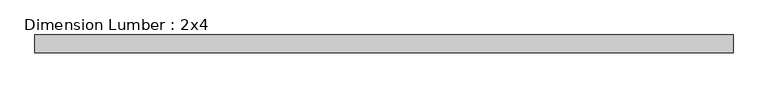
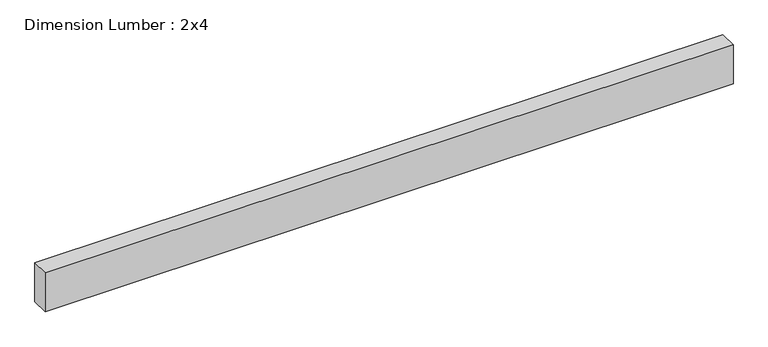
"""IFC4 building model written with IfcOpenShell, lengths in millimetres: beam geometry, Dimension Lumber : 2x4."""

from ifc_helpers import new_model, si_unit, frame, origin, place, context, project, spatial, polyline, outline, extrude, source, transform, mapped, element, save


def dimension_lumber_2x4_aff61fc8(model_context):
    return source(origin(), model_context, "Body", "SweptSolid", [
        extrude(outline(polyline([(745.6797515, 19.05), (745.6797515, -19.05), (-745.6797515, -19.05), (-745.6797515, 19.05), (745.6797515, 19.05)])), frame((0.0, 0.0, -44.45), z_axis=(0.0, 0.0, 1.0), x_axis=(1.0, 0.0, 0.0)), (0.0, 0.0, 1.0), 88.9),
    ])


if __name__ == "__main__":
    model = new_model("IFC4")
    model_context = context("Model", 3, world=origin())
    ifc_project = project(units=[si_unit("LENGTHUNIT", "METRE", prefix="MILLI")], contexts=[model_context])
    site = spatial("IfcSite", under=ifc_project)
    building = spatial("IfcBuilding", under=site)
    placement = place(None, origin())
    dimension_lumber_2x4_shape = dimension_lumber_2x4_aff61fc8(model_context)
    element("IfcBeam", 1, ObjectType="Dimension Lumber : 2x4", at=placement, inside=building, context=model_context, shape_type="MappedRepresentation", body=[
        mapped(dimension_lumber_2x4_shape, transform((0.0, 0.0, 0.0), x_axis=(1.0, 0.0, 0.0), y_axis=(0.0, 1.0, 0.0), z_axis=(0.0, 0.0, 1.0))),
    ])
    save(model, "model.ifc")
